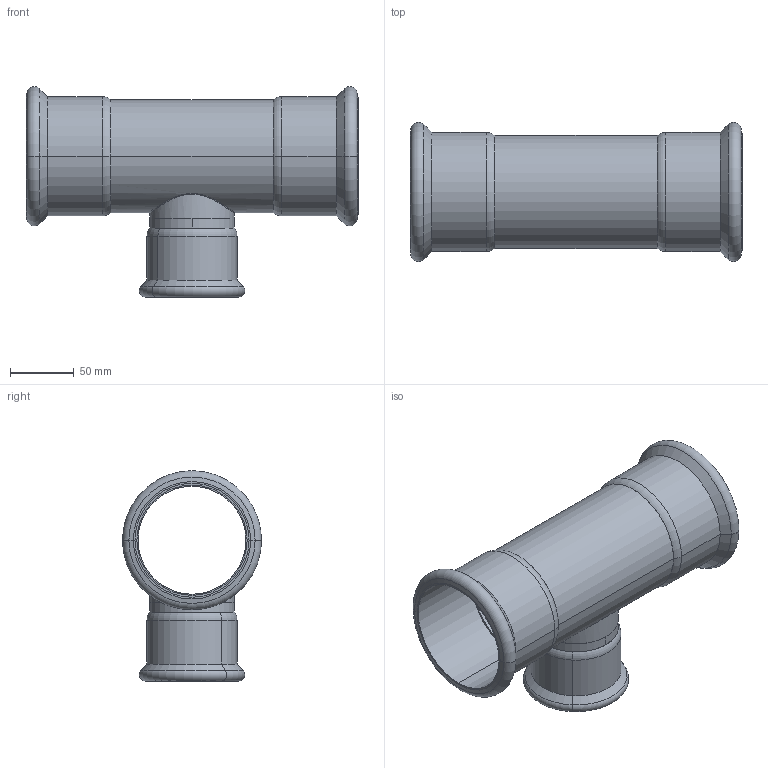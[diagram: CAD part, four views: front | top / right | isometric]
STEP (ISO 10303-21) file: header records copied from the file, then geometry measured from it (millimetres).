
FILE_DESCRIPTION(('CoCreate Modeling STEP Export'),'2;1');
FILE_NAME('C1415 88.9x66.7x88.9.stp','2015-08-10T14:59:49',(''),(''),'CoCreate Modeling STEP processor for AP214 (Solid Model)','CoCreate Modeling 17.00A 17-Jun-2010 (C) Parametric Technology GmbH','');
FILE_SCHEMA(('AUTOMOTIVE_DESIGN { 1 0 10303 214 1 1 1 1 }'));
Length unit declared in the file: millimetre
Products named in the file (7): THUIS_GEKR_889x667; 624169.7.1; 624296.2; 624157.6; HALS667; 624158.7; C1415-88.9x66.7x88.9
Assembly tree (7 placements, depth 3):
  C1415-88.9x66.7x88.9
    624158.7
      HALS667
      624157.6
    624296.2
      624169.7.1  x2
      THUIS_GEKR_889x667
Bounding box: 261.17 x 109.47 x 165.72 mm (x, y, z)
Volume: 244416.9 mm3; surface area: 185922.5 mm2
Topology: 5 solids, 5 shells, 85 faces, 194 edges, 126 vertices
Faces by surface type: cylinder 36, plane 17, cone 16, torus 12, bspline 4
Entity records: 7243 total; most frequent: CARTESIAN_POINT 5863, ORIENTED_EDGE 288, DIRECTION 212, EDGE_CURVE 144, VERTEX_POINT 94, AXIS2_PLACEMENT_3D 87, EDGE_LOOP 78, FACE_OUTER_BOUND 63
